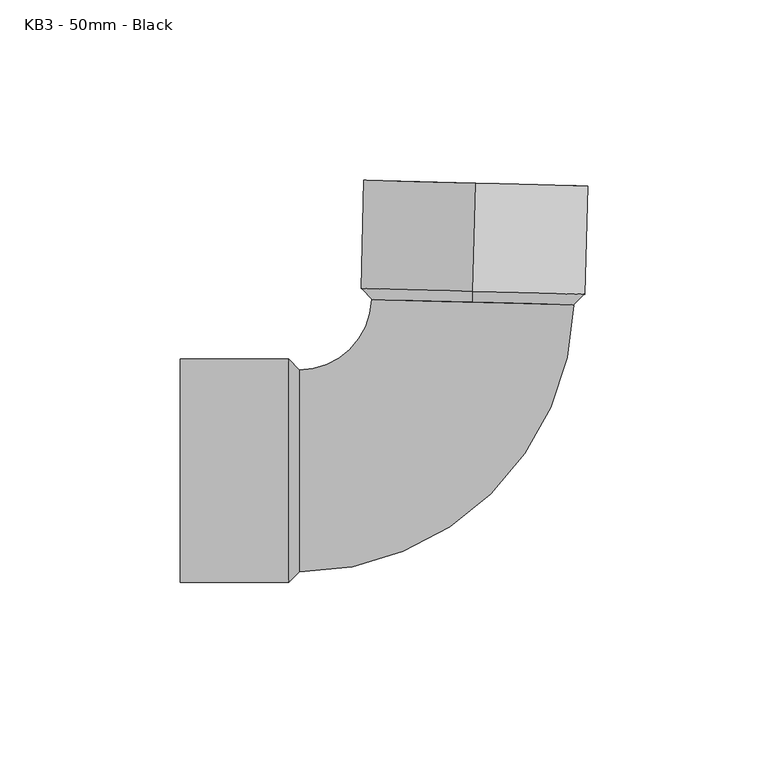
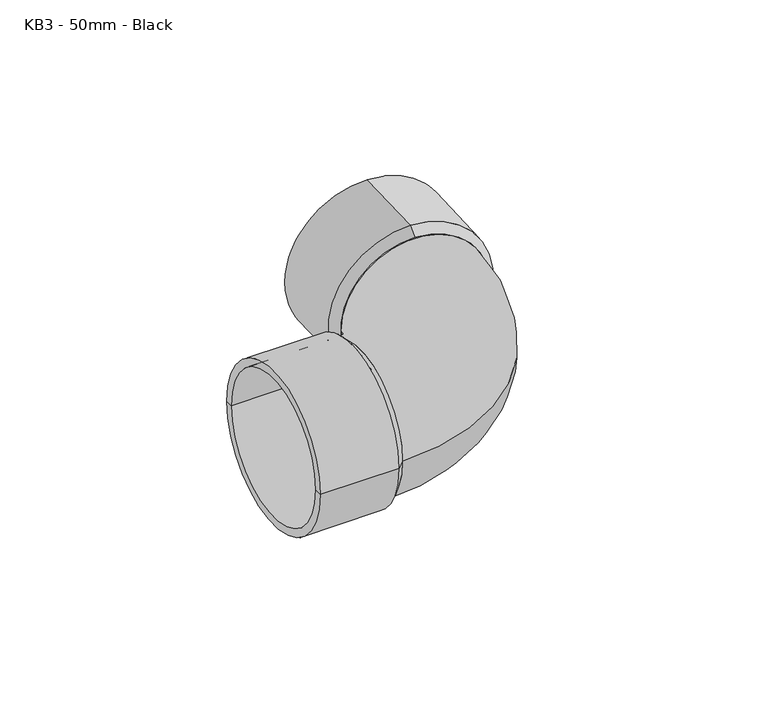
"""IFC4 building model written with IfcOpenShell, lengths in millimetres: pipe fitting geometry, MarleyPlumbingAndDrainage_PipeFitting_Bend88.5 : KB3 - 50mm - Black."""

from ifc_helpers import new_model, si_unit, point, frame, origin, place, context, project, spatial, polyline, circle_curve, ellipse_curve, trimmed, source, transform, mapped, element, save
from ifc_brep_helpers import plane_surface, cylinder_surface, revolved_surface, advanced_brep


def kb3_50mm_black_37affa3f(model_context):
    return source(origin(), model_context, "Body", "AdvancedBrep", [
        advanced_brep(
        [(-12.678927, 79.7321982, -28.0), (-12.678927, 79.7321982, 28.0), (-12.678927, 79.7321982, 31.0), (-12.678927, 79.7321982, -31.0), (-13.4642354, 49.7424785, -28.0), (-13.4642354, 49.7424785, 28.0), (-13.4642354, 49.7424785, 0.0), (-13.5427663, 46.7435065, -28.0), (-13.5427663, 46.7435065, 28.0), (-13.5427663, 46.7435065, 0.0), (-13.4642354, 49.7424785, -31.0), (-13.4642354, 49.7424785, 31.0)],
        [
            (0, 1, circle_curve(frame((-12.678927, 79.7321982, 0.0), z_axis=(-0.026176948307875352, -0.9996573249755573, 0.0), x_axis=(0.0, 0.0, 1.0)), 28.0)),
            (1, 2),
            (2, 3, circle_curve(frame((-12.678927, 79.7321982, 0.0), z_axis=(0.026176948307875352, 0.9996573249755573, 0.0), x_axis=(0.0, 0.0, 1.0)), 31.0)),
            (3, 0),
            (1, 0, circle_curve(frame((-12.678927, 79.7321982, 0.0), z_axis=(-0.026176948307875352, -0.9996573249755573, 0.0), x_axis=(0.0, 0.0, 1.0)), 28.0)),
            (3, 2, circle_curve(frame((-12.678927, 79.7321982, 0.0), z_axis=(0.026176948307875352, 0.9996573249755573, 0.0), x_axis=(0.0, 0.0, 1.0)), 31.0)),
            (4, 5, circle_curve(frame((-13.4642354, 49.7424785, 0.0), z_axis=(-0.026176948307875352, -0.9996573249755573, 0.0), x_axis=(0.0, 0.0, 1.0)), 28.0)),
            (5, 1),
            (0, 4),
            (5, 4, circle_curve(frame((-13.4642354, 49.7424785, 0.0), z_axis=(-0.026176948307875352, -0.9996573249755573, 0.0), x_axis=(0.0, 0.0, 1.0)), 28.0)),
            (6, 5),
            (4, 6),
            (7, 8, circle_curve(frame((-13.5427663, 46.7435065, 0.0), z_axis=(-0.026176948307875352, -0.9996573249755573, 0.0), x_axis=(0.0, 0.0, 1.0)), 28.0)),
            (8, 9),
            (9, 7),
            (8, 7, circle_curve(frame((-13.5427663, 46.7435065, 0.0), z_axis=(-0.026176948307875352, -0.9996573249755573, 0.0), x_axis=(0.0, 0.0, 1.0)), 28.0)),
            (10, 11, circle_curve(frame((-13.4642354, 49.7424785, 0.0), z_axis=(-0.026176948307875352, -0.9996573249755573, 0.0), x_axis=(0.0, 0.0, 1.0)), 31.0)),
            (11, 8),
            (7, 10),
            (11, 10, circle_curve(frame((-13.4642354, 49.7424785, 0.0), z_axis=(-0.026176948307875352, -0.9996573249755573, 0.0), x_axis=(0.0, 0.0, 1.0)), 31.0)),
            (2, 11),
            (10, 3),
        ],
        [
            plane_surface(frame((-12.678927, 79.7321982, 0.0), z_axis=(0.026176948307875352, 0.9996573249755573, 0.0), x_axis=(0.0, 0.0, 1.0))),
            revolved_surface(polyline([(-12.67892697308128, 79.73219819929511, 28.0), (-13.464235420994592, 49.74247850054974, 28.0)]), (-11.6846469, 117.7022223, 0.0), (0.026176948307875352, 0.9996573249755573, 0.0)),
            plane_surface(frame((-13.4642354, 49.7424785, 0.0), z_axis=(0.026176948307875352, 0.9996573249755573, 0.0), x_axis=(0.0, 0.0, 1.0))),
            plane_surface(frame((-13.5427663, 46.7435065, 0.0), z_axis=(-0.026176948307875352, -0.9996573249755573, 0.0), x_axis=(0.0, 0.0, 1.0))),
            revolved_surface(polyline([(-13.5427663, 46.7435065, 28.0), (-13.4642354, 49.7424785, 31.0)]), (-11.6846469, 117.7022223, 0.0), (0.026176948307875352, 0.9996573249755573, 0.0)),
            cylinder_surface(frame((-11.6846469, 117.7022223, 0.0), z_axis=(0.026176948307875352, 0.9996573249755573, 0.0), x_axis=(0.0, 0.0, 1.0)), 31.0),
        ],
        [
            (0, [[1, 2, 3, 4]]),
            (0, [[5, -4, 6, -2]]),
            (1, [[7, 8, -1, 9]]),
            (1, [[10, -9, -5, -8]]),
            (2, [[11, -7, 12]]),
            (2, [[-12, -10, -11]]),
            (3, [[13, 14, 15]]),
            (3, [[16, -15, -14]]),
            (4, [[17, 18, -13, 19]]),
            (4, [[20, -19, -16, -18]]),
            (5, [[-3, 21, -17, 22]]),
            (5, [[-6, -22, -20, -21]]),
        ],
    ),
        advanced_brep(
        [(-94.5263179, 28.0, 0.0), (-94.5263179, -28.0, 0.0), (-94.5263179, -31.0, 0.0), (-94.5263179, 31.0, 0.0), (-64.5263179, 28.0, 0.0), (-64.5263179, -28.0, 0.0), (-64.5263179, 0.0, 0.0), (-61.5263179, 28.0, 0.0), (-61.5263179, -28.0, 0.0), (-61.5263179, 0.0, 0.0), (-64.5263179, 31.0, 0.0), (-64.5263179, -31.0, 0.0)],
        [
            (0, 1, circle_curve(frame((-94.5263179, 0.0, 0.0), z_axis=(1.0, 0.0, 0.0), x_axis=(0.0, -1.0, 0.0)), 28.0)),
            (1, 2),
            (2, 3, circle_curve(frame((-94.5263179, 0.0, 0.0), z_axis=(-1.0, 0.0, 0.0), x_axis=(0.0, -1.0, 0.0)), 31.0)),
            (3, 0),
            (1, 0, circle_curve(frame((-94.5263179, 0.0, 0.0), z_axis=(1.0, 0.0, 0.0), x_axis=(0.0, -1.0, 0.0)), 28.0)),
            (3, 2, circle_curve(frame((-94.5263179, 0.0, 0.0), z_axis=(-1.0, 0.0, 0.0), x_axis=(0.0, -1.0, 0.0)), 31.0)),
            (4, 5, circle_curve(frame((-64.5263179, 0.0, 0.0), z_axis=(1.0, 0.0, 0.0), x_axis=(0.0, -1.0, 0.0)), 28.0)),
            (5, 1),
            (0, 4),
            (5, 4, circle_curve(frame((-64.5263179, 0.0, 0.0), z_axis=(1.0, 0.0, 0.0), x_axis=(0.0, -1.0, 0.0)), 28.0)),
            (6, 5),
            (4, 6),
            (7, 8, circle_curve(frame((-61.5263179, 0.0, 0.0), z_axis=(1.0, 0.0, 0.0), x_axis=(0.0, -1.0, 0.0)), 28.0)),
            (8, 9),
            (9, 7),
            (8, 7, circle_curve(frame((-61.5263179, 0.0, 0.0), z_axis=(1.0, 0.0, 0.0), x_axis=(0.0, -1.0, 0.0)), 28.0)),
            (10, 11, circle_curve(frame((-64.5263179, 0.0, 0.0), z_axis=(1.0, 0.0, 0.0), x_axis=(0.0, -1.0, 0.0)), 31.0)),
            (11, 8),
            (7, 10),
            (11, 10, circle_curve(frame((-64.5263179, 0.0, 0.0), z_axis=(1.0, 0.0, 0.0), x_axis=(0.0, -1.0, 0.0)), 31.0)),
            (2, 11),
            (10, 3),
        ],
        [
            plane_surface(frame((-94.5263179, 0.0, 0.0), z_axis=(-1.0, 0.0, 0.0), x_axis=(0.0, -1.0, 0.0))),
            revolved_surface(polyline([(-94.5263179, -28.0, 0.0), (-64.5263179, -28.0, 0.0)]), (-132.5093578, 0.0, 0.0), (-1.0, 0.0, 0.0)),
            plane_surface(frame((-64.5263179, 0.0, 0.0), z_axis=(-1.0, 0.0, 0.0), x_axis=(0.0, -1.0, 0.0))),
            plane_surface(frame((-61.5263179, 0.0, 0.0), z_axis=(1.0, 0.0, 0.0), x_axis=(0.0, -1.0, 0.0))),
            revolved_surface(polyline([(-61.5263179, -28.0, 0.0), (-64.5263179, -31.0, 0.0)]), (-132.5093578, 0.0, 0.0), (-1.0, 0.0, 0.0)),
            cylinder_surface(frame((-132.5093578, 0.0, 0.0), z_axis=(-1.0, 0.0, 0.0), x_axis=(0.0, -1.0, 0.0)), 31.0),
        ],
        [
            (0, [[1, 2, 3, 4]]),
            (0, [[5, -4, 6, -2]]),
            (1, [[7, 8, -1, 9]]),
            (1, [[10, -9, -5, -8]]),
            (2, [[11, -7, 12]]),
            (2, [[-12, -10, -11]]),
            (3, [[13, 14, 15]]),
            (3, [[16, -15, -14]]),
            (4, [[17, 18, -13, 19]]),
            (4, [[20, -19, -16, -18]]),
            (5, [[-3, 21, -17, 22]]),
            (5, [[-6, -22, -20, -21]]),
        ],
    ),
        advanced_brep(
        [(-61.5263179, -28.0, 0.0), (-61.5263179, 28.0, 0.0), (14.4476388, 46.0105519, 0.0), (-41.5331714, 47.476461, 0.0)],
        [
            (0, 1, circle_curve(frame((-61.5263179, 0.0, 0.0), z_axis=(-1.0, 0.0, 0.0), x_axis=(0.0, 1.0, 0.0)), 28.0)),
            (1, 0, circle_curve(frame((-61.5263179, 0.0, 0.0), z_axis=(-1.0, 0.0, 0.0), x_axis=(0.0, 1.0, 0.0)), 28.0)),
            (2, 3, circle_curve(frame((-13.5427663, 46.7435065, 0.0), z_axis=(0.02617694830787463, 0.9996573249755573, 0.0), x_axis=(-0.9996573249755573, 0.02617694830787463, 0.0)), 28.0)),
            (3, 2, circle_curve(frame((-13.5427663, 46.7435065, 0.0), z_axis=(0.02617694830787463, 0.9996573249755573, 0.0), x_axis=(-0.9996573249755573, 0.02617694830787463, 0.0)), 28.0)),
            (3, 1, circle_curve(frame((-61.5263179, 48.0, 0.0), z_axis=(0.0, 0.0, -1.0), x_axis=(0.0, -1.0, 0.0)), 20.0)),
            (0, 2, circle_curve(frame((-61.5263179, 48.0, 0.0), z_axis=(0.0, 0.0, 1.0), x_axis=(0.0, -1.0, 0.0)), 76.0)),
        ],
        [
            plane_surface(frame((-61.5263179, 0.0, 0.0), z_axis=(-1.0, 0.0, 0.0), x_axis=(0.0, 0.0, 1.0))),
            plane_surface(frame((-13.5427663, 46.7435065, 0.0), z_axis=(0.02617694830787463, 0.9996573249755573, 0.0), x_axis=(0.0, 0.0, 1.0))),
            revolved_surface(trimmed(ellipse_curve(frame((-61.5263179, 0.0, 0.0), z_axis=(-1.0, 0.0, 0.0), x_axis=(0.0, 1.0, 0.0)), 28.0, 28.0), [point((-61.5263179, -28.0, 0.0))], [point((-61.5263179, 28.0, 0.0))], True, "CARTESIAN"), (-61.5263179, 48.0, 0.0), (0.0, 0.0, 1.0)),
            revolved_surface(trimmed(ellipse_curve(frame((-61.5263179, 0.0, 0.0), z_axis=(-1.0, 0.0, 0.0), x_axis=(0.0, 1.0, 0.0)), 28.0, 28.0), [point((-61.5263179, 28.0, 0.0))], [point((-61.5263179, -28.0, 0.0))], True, "CARTESIAN"), (-61.5263179, 48.0, 0.0), (0.0, 0.0, 1.0)),
        ],
        [
            (0, [[1, 2]]),
            (1, [[3, 4]]),
            (2, [[5, -1, 6, -4]]),
            (3, [[-6, -2, -5, -3]]),
        ],
    ),
    ])


if __name__ == "__main__":
    model = new_model("IFC4")
    model_context = context("Model", 3, world=origin())
    ifc_project = project(units=[si_unit("LENGTHUNIT", "METRE", prefix="MILLI")], contexts=[model_context])
    site = spatial("IfcSite", under=ifc_project)
    building = spatial("IfcBuilding", under=site)
    placement = place(None, origin())
    kb3_50mm_black_shape = kb3_50mm_black_37affa3f(model_context)
    element("IfcPipeFitting", 1, ObjectType="MarleyPlumbingAndDrainage_PipeFitting_Bend88.5 : KB3 - 50mm - Black", at=placement, inside=building, context=model_context, shape_type="MappedRepresentation", body=[
        mapped(kb3_50mm_black_shape, transform((0.0, 0.0, 0.0), x_axis=(1.0, 0.0, 0.0), y_axis=(0.0, 1.0, 0.0), z_axis=(0.0, 0.0, 1.0))),
    ])
    save(model, "model.ifc")
